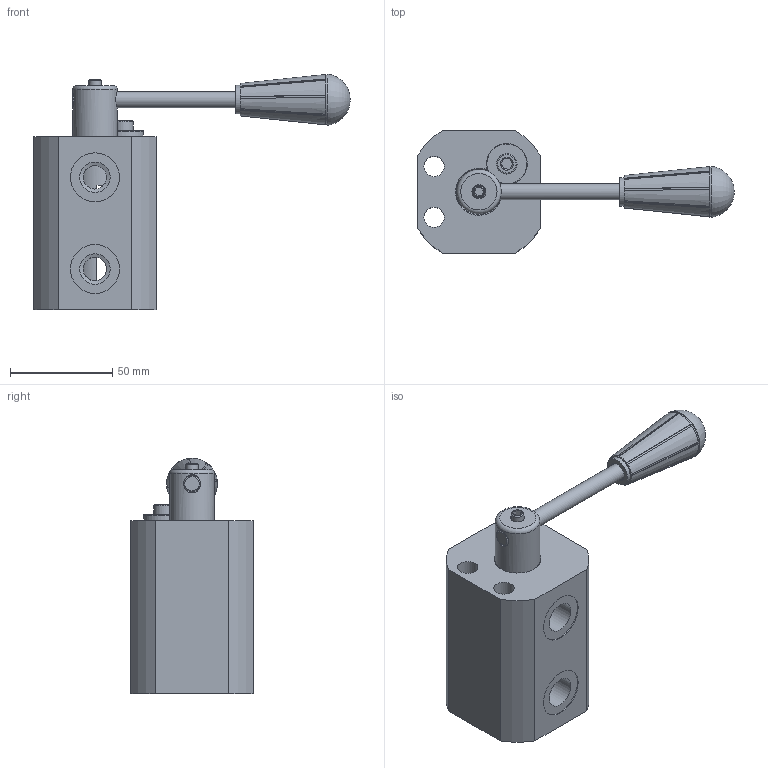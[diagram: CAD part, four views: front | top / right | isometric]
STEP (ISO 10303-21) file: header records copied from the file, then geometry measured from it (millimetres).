
FILE_DESCRIPTION(/* description */ ('Unknown'),/* implementation_level */ '2;1');
FILE_NAME(/* name */ 'DEVAP6V38CA',/* time_stamp */ '2024-12-05T10:41:43+01:00',/* author */ ('Unknown'),/* organization */ ('Unknown'),/* preprocessor_version */ 'ST-DEVELOPER v19.4',/* originating_system */ 'Solid Edge',/* authorisation */ 'Unknown');
FILE_SCHEMA (('AUTOMOTIVE_DESIGN {1 0 10303 214 3 1 1}'));
Length unit declared in the file: millimetre
Products named in the file (1): DEVAP6V38CA
Bounding box: 155.07 x 59.94 x 115.45 mm (x, y, z)
Volume: 278462.8 mm3; surface area: 46224 mm2
Topology: 1 solids, 1 shells, 159 faces, 401 edges, 259 vertices
Faces by surface type: plane 77, cylinder 49, cone 26, torus 7
Full cylindrical faces by diameter (mm): 5.994 x1, 8 x1, 9.5 x1, 9.99 x3, 11.489 x6, 14 x1, 14.935 x12, 21.778 x1, 21.978 x1, 23.976 x6
Entity records: 5559 total; most frequent: CARTESIAN_POINT 983, DIRECTION 712, ORIENTED_EDGE 634, EDGE_CURVE 317, AXIS2_PLACEMENT_3D 286, EDGE_LOOP 242, FACE_BOUND 242, VERTEX_POINT 227
